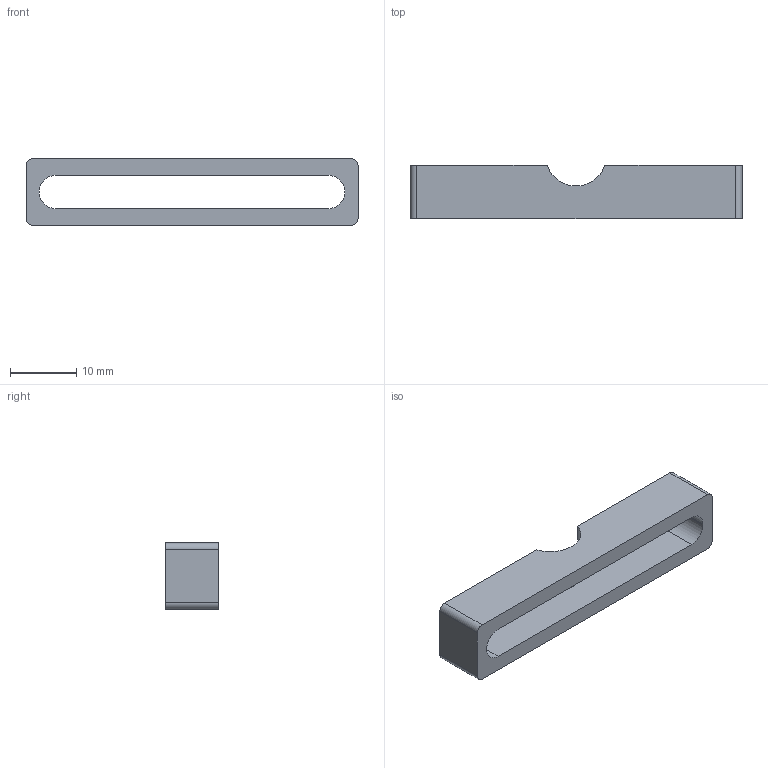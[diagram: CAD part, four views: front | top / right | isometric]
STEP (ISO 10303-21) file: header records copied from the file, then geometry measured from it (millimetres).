
FILE_DESCRIPTION(('Open CASCADE Model'),'2;1');
FILE_NAME('Open CASCADE Shape Model','2026-11-01T16:34:16',('Author'),( 'Open CASCADE'),'Open CASCADE STEP processor 8.0','build123d', 'Unknown');
FILE_SCHEMA(('AUTOMOTIVE_DESIGN { 1 0 10303 214 1 1 1 1 }'));
Length unit declared in the file: millimetre
Products named in the file (1): SOLID
Bounding box: 50 x 8 x 10 mm (x, y, z)
Volume: 2094.3 mm3; surface area: 2212.2 mm2
Topology: 1 solids, 1 shells, 21 faces, 60 edges, 40 vertices
Faces by surface type: plane 11, cylinder 10
Entity records: 1472 total; most frequent: CARTESIAN_POINT 294, DIRECTION 212, ORIENTED_EDGE 120, PCURVE 120, DEFINITIONAL_REPRESENTATION 120, LINE 112, VECTOR 112, EDGE_CURVE 60
